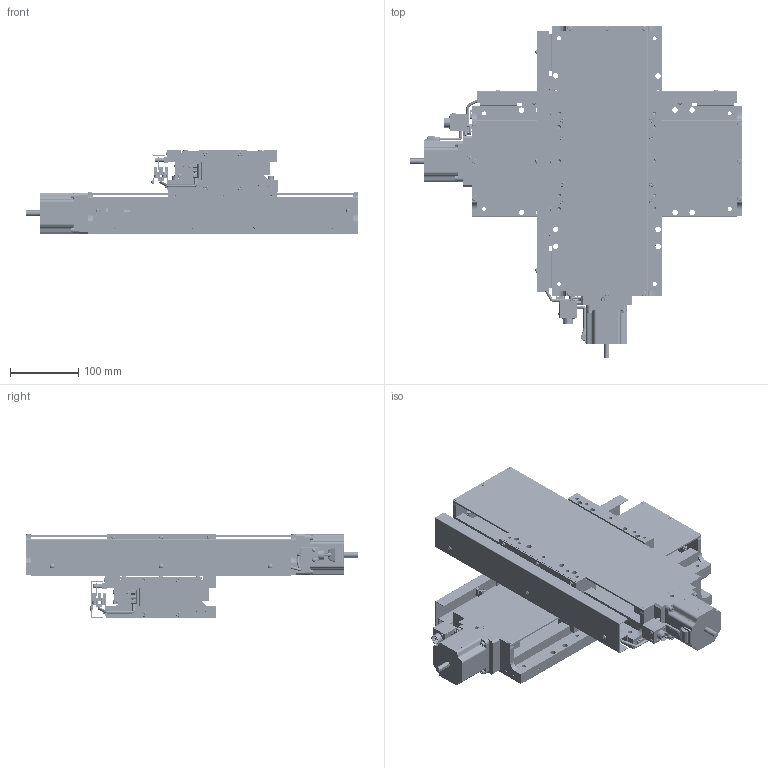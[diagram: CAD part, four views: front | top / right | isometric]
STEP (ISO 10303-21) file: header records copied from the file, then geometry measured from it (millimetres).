
FILE_DESCRIPTION( (''), '2;1');
FILE_NAME ('YA16F-L22201-RRR.stp','2021-01-05T15:25:15',(''),(''),'spGate 15.6.6','','');
FILE_SCHEMA (('AUTOMOTIVE_DESIGN'));
Length unit declared in the file: millimetre
Products named in the file (4): Assembly; YA16F-L22201-RRR-prt0; YA16F-L22201-RRR-prt1; YA16F-L22201-RRR-prt2
Assembly tree (3 placements, depth 2):
  Assembly
    YA16F-L22201-RRR-prt0
    YA16F-L22201-RRR-prt1
    YA16F-L22201-RRR-prt2
Bounding box: 486.5 x 486.5 x 124 mm (x, y, z)
Volume: 4309614.7 mm3; surface area: 1053282.3 mm2
Topology: 3 solids, 3 shells, 5117 faces, 12737 edges, 7910 vertices
Faces by surface type: plane 3034, cylinder 1247, bspline 772, sphere 64
Entity records: 257288 total; most frequent: CARTESIAN_POINT 37977, ORIENTED_EDGE 25098, DIRECTION 23430, COLOUR_RGB 17669, PRESENTATION_STYLE_ASSIGNMENT 17669, STYLED_ITEM 17669, EDGE_CURVE 12549, DRAUGHTING_PRE_DEFINED_CURVE_FONT 12549
